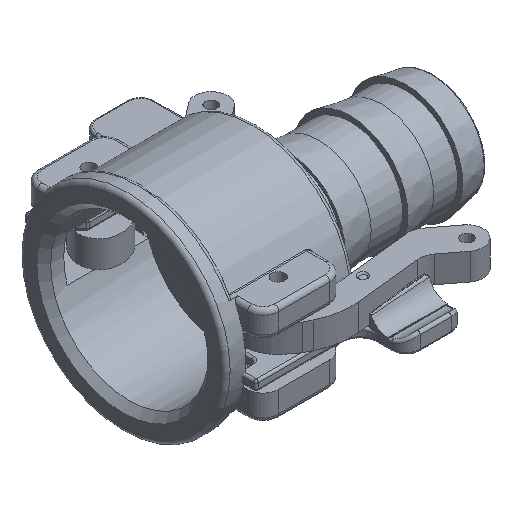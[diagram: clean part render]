
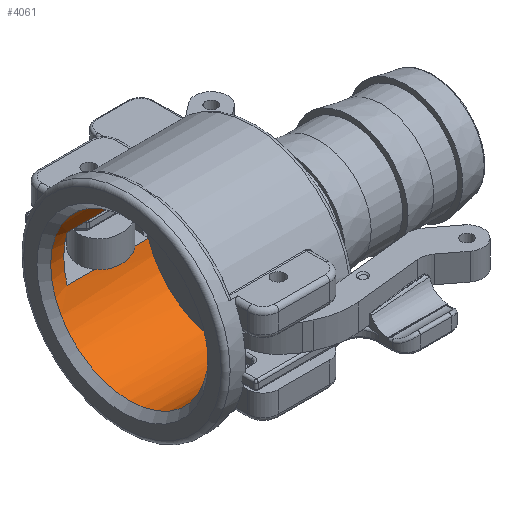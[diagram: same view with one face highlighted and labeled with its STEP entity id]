
A CAD part, isometric view. The second image highlights one B-rep face of the part: STEP entity #4061.
In plain terms, the highlighted cylindrical face has radius 27.051 mm (diameter 54.102 mm), a full revolution.
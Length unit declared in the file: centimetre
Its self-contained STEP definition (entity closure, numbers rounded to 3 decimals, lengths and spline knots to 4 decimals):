
#787=CYLINDRICAL_SURFACE('',#4329,2.7051);
#946=VECTOR('',#8243,1.);
#947=VECTOR('',#8246,1.);
#948=VECTOR('',#8249,1.);
#949=VECTOR('',#8252,1.);
#1149=LINE('',#5003,#946);
#1150=LINE('',#5007,#947);
#1151=LINE('',#5011,#948);
#1152=LINE('',#5015,#949);
#1439=VERTEX_POINT('',#4993);
#1442=VERTEX_POINT('',#5001);
#1443=VERTEX_POINT('',#5002);
#1444=VERTEX_POINT('',#5004);
#1445=VERTEX_POINT('',#5006);
#1446=VERTEX_POINT('',#5008);
#1447=VERTEX_POINT('',#5010);
#1448=VERTEX_POINT('',#5012);
#1449=VERTEX_POINT('',#5014);
#1741=CIRCLE('',#4325,2.7051);
#1744=CIRCLE('',#4330,2.7051);
#1745=CIRCLE('',#4331,2.7051);
#1746=CIRCLE('',#4332,2.7051);
#1747=CIRCLE('',#4333,2.7051);
#2003=EDGE_CURVE('',#1439,#1439,#1741,.T.);
#2006=EDGE_CURVE('',#1442,#1443,#1744,.T.);
#2007=EDGE_CURVE('',#1444,#1443,#1149,.T.);
#2008=EDGE_CURVE('',#1445,#1444,#1745,.T.);
#2009=EDGE_CURVE('',#1446,#1445,#1150,.T.);
#2010=EDGE_CURVE('',#1446,#1447,#1746,.T.);
#2011=EDGE_CURVE('',#1448,#1447,#1151,.T.);
#2012=EDGE_CURVE('',#1449,#1448,#1747,.T.);
#2013=EDGE_CURVE('',#1442,#1449,#1152,.T.);
#2590=ORIENTED_EDGE('',*,*,#2006,.T.);
#2591=ORIENTED_EDGE('',*,*,#2007,.F.);
#2592=ORIENTED_EDGE('',*,*,#2008,.F.);
#2593=ORIENTED_EDGE('',*,*,#2009,.F.);
#2594=ORIENTED_EDGE('',*,*,#2010,.T.);
#2595=ORIENTED_EDGE('',*,*,#2011,.F.);
#2596=ORIENTED_EDGE('',*,*,#2012,.F.);
#2597=ORIENTED_EDGE('',*,*,#2013,.F.);
#2598=ORIENTED_EDGE('',*,*,#2003,.F.);
#3528=EDGE_LOOP('',(#2590,#2591,#2592,#2593,#2594,#2595,#2596,#2597));
#3529=EDGE_LOOP('',(#2598));
#3810=FACE_BOUND('',#3528,.T.);
#3811=FACE_BOUND('',#3529,.T.);
#4061=ADVANCED_FACE('',(#3810,#3811),#787,.F.);
#4325=AXIS2_PLACEMENT_3D('',#4992,#8232,#8233);
#4329=AXIS2_PLACEMENT_3D('',#4999,#8239,#8240);
#4330=AXIS2_PLACEMENT_3D('',#5000,#8241,#8242);
#4331=AXIS2_PLACEMENT_3D('',#5005,#8244,#8245);
#4332=AXIS2_PLACEMENT_3D('',#5009,#8247,#8248);
#4333=AXIS2_PLACEMENT_3D('',#5013,#8250,#8251);
#4992=CARTESIAN_POINT('',(0.4496,0.,0.));
#4993=CARTESIAN_POINT('',(0.4496,0.,-2.7051));
#4999=CARTESIAN_POINT('',(0.6858,0.,0.));
#5000=CARTESIAN_POINT('',(-2.794,0.,0.));
#5001=CARTESIAN_POINT('',(-2.794,2.588,-0.7874));
#5002=CARTESIAN_POINT('',(-2.794,-2.588,-0.7874));
#5003=CARTESIAN_POINT('',(-1.4097,-2.588,-0.7874));
#5004=CARTESIAN_POINT('',(0.,-2.588,-0.7874));
#5005=CARTESIAN_POINT('',(0.,0.,0.));
#5006=CARTESIAN_POINT('',(0.,-2.588,0.7874));
#5007=CARTESIAN_POINT('',(-1.4288,-2.588,0.7874));
#5008=CARTESIAN_POINT('',(-2.794,-2.588,0.7874));
#5009=CARTESIAN_POINT('',(-2.794,0.,0.));
#5010=CARTESIAN_POINT('',(-2.794,2.588,0.7874));
#5011=CARTESIAN_POINT('',(-1.4097,2.588,0.7874));
#5012=CARTESIAN_POINT('',(0.,2.588,0.7874));
#5013=CARTESIAN_POINT('',(0.,0.,0.));
#5014=CARTESIAN_POINT('',(0.,2.588,-0.7874));
#5015=CARTESIAN_POINT('',(-1.4097,2.588,-0.7874));
#8232=DIRECTION('',(-1.,0.,0.));
#8233=DIRECTION('',(0.,0.,2.705));
#8239=DIRECTION('',(-1.,0.,0.));
#8240=DIRECTION('',(0.,0.,-2.705));
#8241=DIRECTION('',(-1.,0.,0.));
#8242=DIRECTION('',(0.,0.,-2.705));
#8243=DIRECTION('',(-1.,0.,0.));
#8244=DIRECTION('',(1.,0.,0.));
#8245=DIRECTION('',(0.,0.,-2.705));
#8246=DIRECTION('',(1.,0.,0.));
#8247=DIRECTION('',(-1.,0.,0.));
#8248=DIRECTION('',(0.,0.,-2.705));
#8249=DIRECTION('',(-1.,0.,0.));
#8250=DIRECTION('',(1.,0.,0.));
#8251=DIRECTION('',(0.,0.,-2.705));
#8252=DIRECTION('',(1.,0.,0.));
